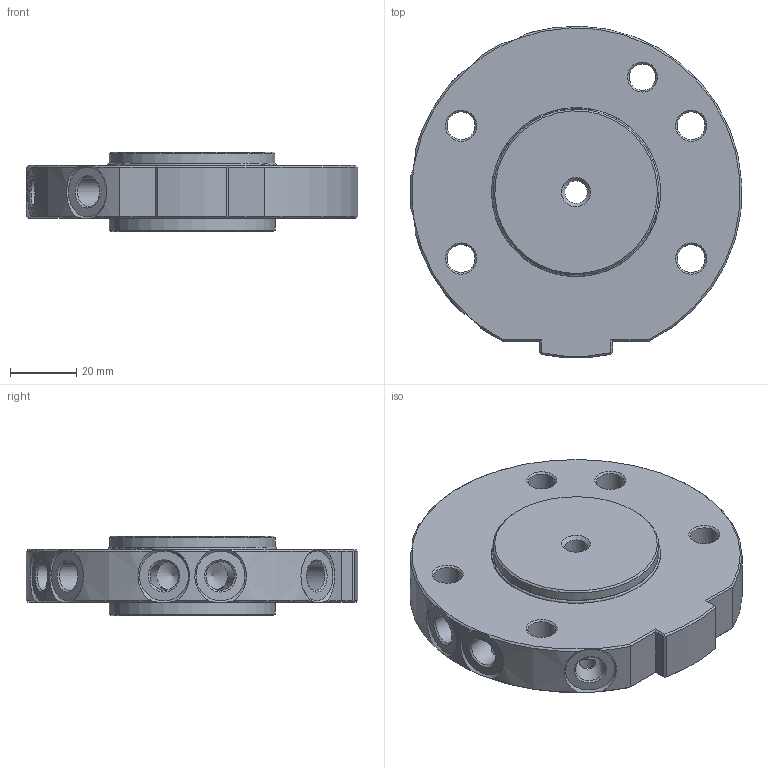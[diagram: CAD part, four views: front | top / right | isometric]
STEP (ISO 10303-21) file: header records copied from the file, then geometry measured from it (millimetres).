
FILE_DESCRIPTION(/* description */ (''),/* implementation_level */ '2;1');
FILE_NAME(/* name */ 'G-ZS100-S5P_Rev.1.01.stp',/* time_stamp */ '2024-08-29T15:23:22+02:00',/* author */ ('ysplieth'),/* organization */ (''),/* preprocessor_version */ 'ST-DEVELOPER v20',/* originating_system */ 'Autodesk Inventor 2024',/* authorisation */ '');
FILE_SCHEMA (('AUTOMOTIVE_DESIGN { 1 0 10303 214 3 1 1 }'));
Length unit declared in the file: millimetre
Products named in the file (1): Bauteil3
Bounding box: 99.94 x 99.86 x 23.95 mm (x, y, z)
Volume: 114944.3 mm3; surface area: 29672.7 mm2
Topology: 2 solids, 2 shells, 113 faces, 278 edges, 174 vertices
Faces by surface type: cone 52, cylinder 31, plane 28, torus 2
Full cylindrical faces by diameter (mm): 5 x5, 6.75 x1, 8 x1, 8.4 x4, 8.7 x5, 35 x1, 48.8 x2, 50 x4
Entity records: 3857 total; most frequent: CARTESIAN_POINT 1008, DIRECTION 565, ORIENTED_EDGE 546, EDGE_CURVE 273, AXIS2_PLACEMENT_3D 236, VERTEX_POINT 174, EDGE_LOOP 147, CIRCLE 122
